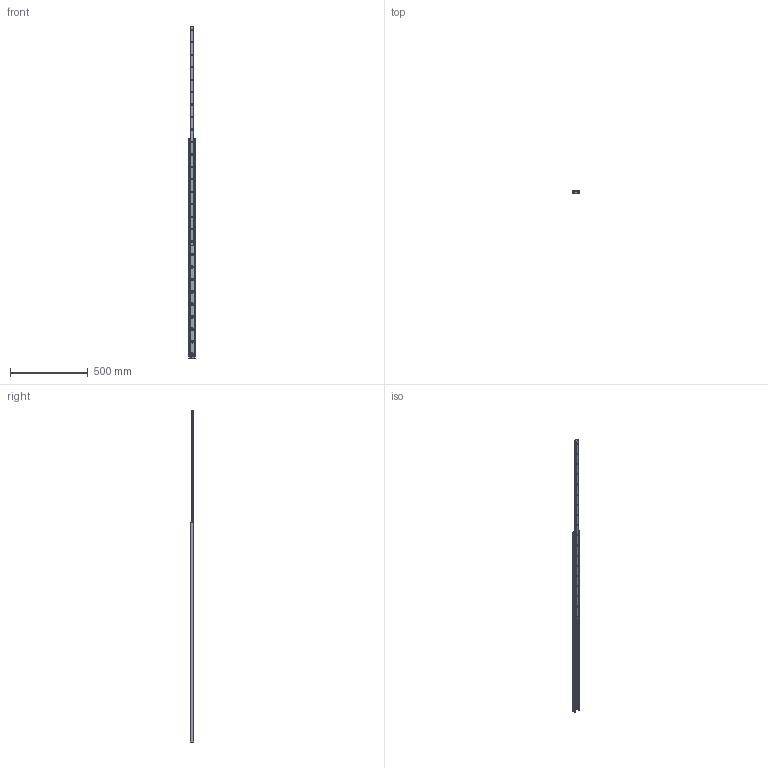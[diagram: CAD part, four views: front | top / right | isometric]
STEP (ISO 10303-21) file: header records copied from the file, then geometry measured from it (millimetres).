
FILE_DESCRIPTION(('STEP AP214'),'1');
FILE_NAME('rail_asn43-1410_01.stp','2017-06-06T10:19:02',('TraceParts'),('TraceParts S.A.'),'Spatial InterOp 3D',' ',' ');
FILE_SCHEMA(('automotive_design'));
Length unit declared in the file: millimetre
Products named in the file (2): rail_asn43-1410_01_1; rail_asn43-1410_01_2
Bounding box: 43 x 22.01 x 2133 mm (x, y, z)
Volume: 858205.3 mm3; surface area: 331932.1 mm2
Topology: 2 solids, 2 shells, 257 faces, 636 edges, 388 vertices
Faces by surface type: cone 108, cylinder 103, plane 46
Entity records: 7794 total; most frequent: DIRECTION 1468, CARTESIAN_POINT 1283, ORIENTED_EDGE 1272, EDGE_CURVE 636, AXIS2_PLACEMENT_3D 573, VERTEX_POINT 388, EDGE_LOOP 334, LINE 322
